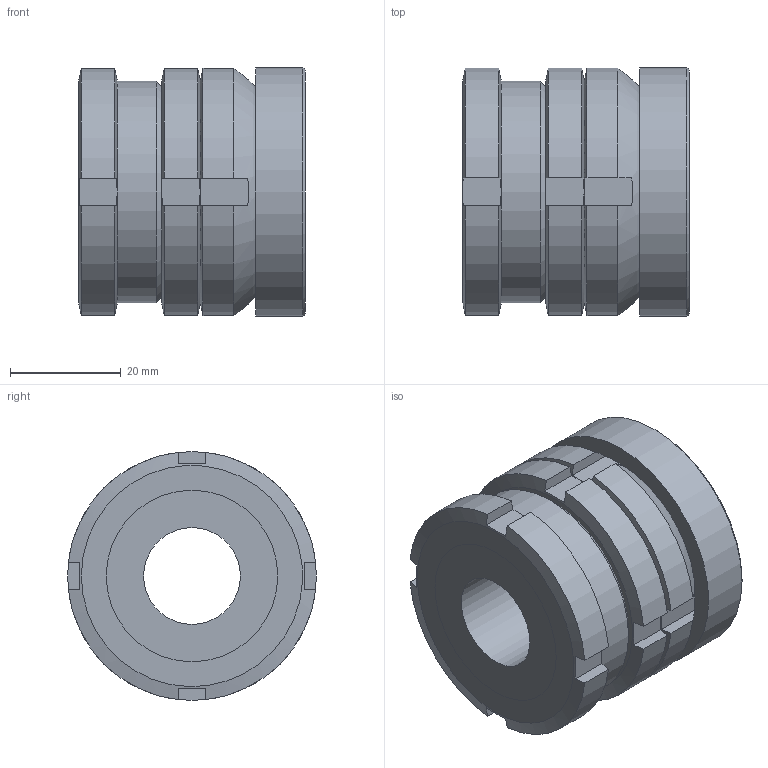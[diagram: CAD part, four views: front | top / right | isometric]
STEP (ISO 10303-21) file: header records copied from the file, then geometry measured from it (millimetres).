
FILE_DESCRIPTION( ( 'STEP AP203' ), '1' );
FILE_NAME( 'C:/Temp/Ganter_Step_05_03_2020/data/3_2/gn350_5/gn350_5_st/Levelling set GN 350.5-45-17,5-41-ST (0-0).stp', '2020-03-13T05:28:30', ( 'License CC BY-ND 4.0' ), ( 'CADENAS' ), ' ', 'PARTsolutions', ' ' );
FILE_SCHEMA( ( 'CONFIG_CONTROL_DESIGN' ) );
Length unit declared in the file: millimetre
Products named in the file (5): Levelling set GN 350.5-45-17,5-41-ST (0-0); _Levelling set GN 350.5-45-17,5-41-ST-G; _Levelling set GN 350.5-45-17,5-41-ST-K; _Levelling set GN 350.5-45-17,5-41-ST-P(0); _Levelling set GN 350.5-45-17,5-41-ST-KM
Assembly tree (4 placements, depth 2):
  Levelling set GN 350.5-45-17,5-41-ST (0-0)
    _Levelling set GN 350.5-45-17,5-41-ST-G
    _Levelling set GN 350.5-45-17,5-41-ST-K
    _Levelling set GN 350.5-45-17,5-41-ST-P(0)
    _Levelling set GN 350.5-45-17,5-41-ST-KM
Bounding box: 41 x 45 x 45 mm (x, y, z)
Volume: 49778.2 mm3; surface area: 21331.2 mm2
Topology: 4 solids, 4 shells, 85 faces, 211 edges, 140 vertices
Faces by surface type: plane 50, cylinder 24, cone 9, sphere 2
Full cylindrical faces by diameter (mm): 17.5 x1, 22 x1, 24.492 x1, 25.5 x1, 28.376 x1, 28.917 x1, 30 x2, 31 x2, 40 x1, 45 x1
Entity records: 2696 total; most frequent: CARTESIAN_POINT 698, DIRECTION 368, ORIENTED_EDGE 356, EDGE_CURVE 178, AXIS2_PLACEMENT_3D 160, VERTEX_POINT 130, EDGE_LOOP 122, FACE_OUTER_BOUND 99
